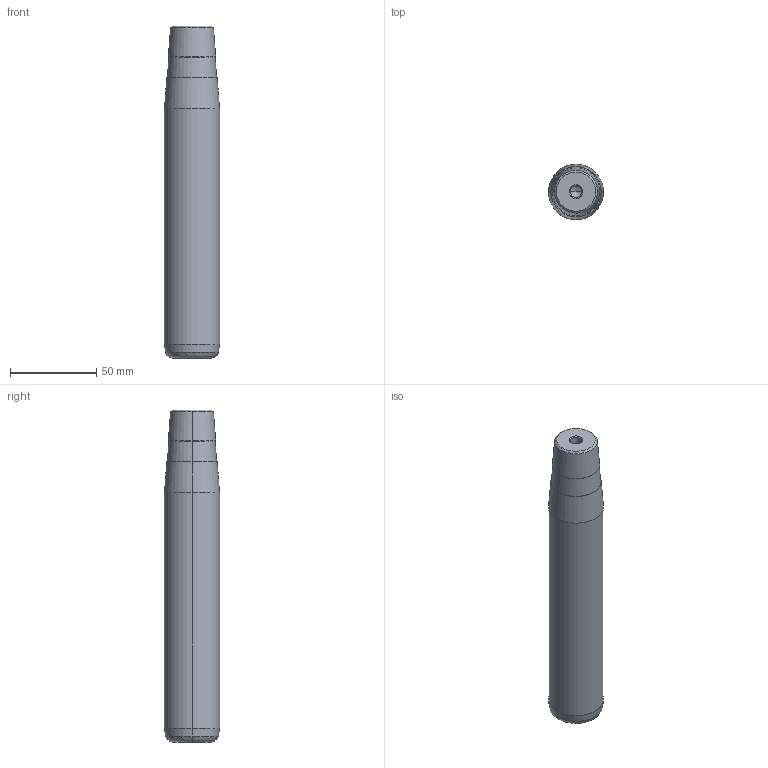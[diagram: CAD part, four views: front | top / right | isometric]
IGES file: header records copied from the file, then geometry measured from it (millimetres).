
Start section: START RECORD GO HERE.
Global section: file name: 722-32x160x193.igs; native system: DASSAULT SYSTEMES CATIA V5 R20 - www.3ds.com; preprocessor: CATIA Version 5 Release 20 ; author: Utente; organization: NB04-ASUS; date: 20210108.171139; units: millimetre
Bounding box: 32 x 32 x 193 mm (x, y, z)
Surface area: 20977.2 mm2 (no closed solid volume)
Topology: 0 solids, 0 shells, 32 faces, 128 edges, 124 vertices
Faces by surface type: revolution 30, plane 2
